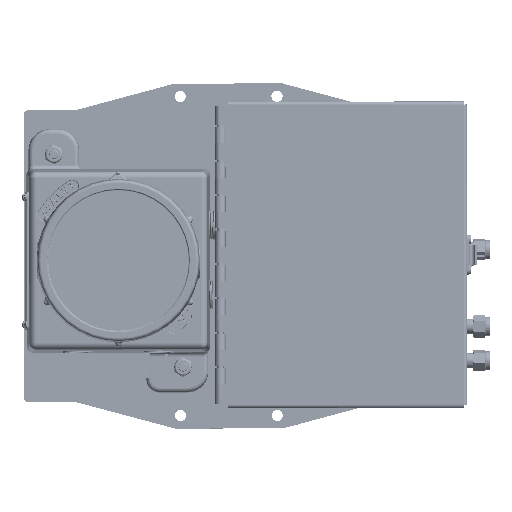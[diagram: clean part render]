
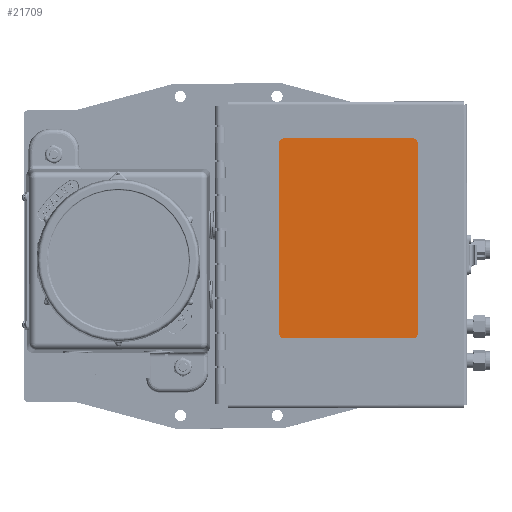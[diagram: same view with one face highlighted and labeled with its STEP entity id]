
A CAD part, top view. The second image highlights one B-rep face of the part: STEP entity #21709.
In plain terms, the highlighted planar face has unit normal (0, 0, 1).
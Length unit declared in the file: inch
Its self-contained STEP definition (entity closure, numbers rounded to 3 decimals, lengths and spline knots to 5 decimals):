
#21709 = ADVANCED_FACE ( 'NONE', ( #332207 ), #464193, .T. ) ;
#56203 = EDGE_CURVE ( 'NONE', #313847, #341854, #328486, .T. ) ;
#62045 = AXIS2_PLACEMENT_3D ( 'NONE', #364473, #453331, #155013 ) ;
#62546 = DIRECTION ( 'NONE',  ( 0., -1., 0. ) ) ;
#63423 = ORIENTED_EDGE ( 'NONE', *, *, #161694, .T. ) ;
#69522 = VECTOR ( 'NONE', #62546, 39.37008 ) ;
#71045 = CARTESIAN_POINT ( 'NONE',  ( -2.013, 2.778, 0.055 ) ) ;
#82764 = DIRECTION ( 'NONE',  ( 1., 0., 0. ) ) ;
#85466 = VERTEX_POINT ( 'NONE', #231504 ) ;
#89499 = DIRECTION ( 'NONE',  ( 1., 0., 0. ) ) ;
#91544 = VERTEX_POINT ( 'NONE', #378397 ) ;
#93800 = EDGE_CURVE ( 'NONE', #131651, #484579, #366000, .T. ) ;
#95267 = CARTESIAN_POINT ( 'NONE',  ( -1.888, 2.903, 0.055 ) ) ;
#108291 = CARTESIAN_POINT ( 'NONE',  ( 2.013, 2.778, 0.055 ) ) ;
#124461 = DIRECTION ( 'NONE',  ( 1., 0., 0. ) ) ;
#131651 = VERTEX_POINT ( 'NONE', #447151 ) ;
#134144 = CARTESIAN_POINT ( 'NONE',  ( 1.888, -2.778, 0.055 ) ) ;
#134813 = VERTEX_POINT ( 'NONE', #527541 ) ;
#147504 = CARTESIAN_POINT ( 'NONE',  ( -1.888, 2.903, 0.055 ) ) ;
#150877 = CARTESIAN_POINT ( 'NONE',  ( 2.013, 2.778, 0.055 ) ) ;
#153530 = CIRCLE ( 'NONE', #354779, 0.125 ) ;
#155013 = DIRECTION ( 'NONE',  ( 1., 0., 0. ) ) ;
#161694 = EDGE_CURVE ( 'NONE', #91544, #131651, #190910, .T. ) ;
#171446 = DIRECTION ( 'NONE',  ( 0., 0., 1. ) ) ;
#181756 = EDGE_CURVE ( 'NONE', #419912, #85466, #528984, .T. ) ;
#181973 = LINE ( 'NONE', #147504, #370940 ) ;
#190910 = CIRCLE ( 'NONE', #364963, 0.125 ) ;
#200505 = ORIENTED_EDGE ( 'NONE', *, *, #93800, .T. ) ;
#207150 = AXIS2_PLACEMENT_3D ( 'NONE', #389498, #567072, #257327 ) ;
#217448 = ORIENTED_EDGE ( 'NONE', *, *, #56203, .T. ) ;
#231504 = CARTESIAN_POINT ( 'NONE',  ( -1.888, -2.903, 0.055 ) ) ;
#237669 = VECTOR ( 'NONE', #242408, 39.37008 ) ;
#240941 = CARTESIAN_POINT ( 'NONE',  ( -2.013, 2.778, 0.055 ) ) ;
#242408 = DIRECTION ( 'NONE',  ( 0., 1., 0. ) ) ;
#247730 = CARTESIAN_POINT ( 'NONE',  ( -2.013, -2.778, 0.055 ) ) ;
#257327 = DIRECTION ( 'NONE',  ( 1., 0., 0. ) ) ;
#276569 = ORIENTED_EDGE ( 'NONE', *, *, #564731, .T. ) ;
#301870 = ORIENTED_EDGE ( 'NONE', *, *, #440089, .T. ) ;
#304464 = LINE ( 'NONE', #479409, #436643 ) ;
#313847 = VERTEX_POINT ( 'NONE', #95267 ) ;
#323290 = LINE ( 'NONE', #71045, #69522 ) ;
#328486 = CIRCLE ( 'NONE', #475135, 0.125 ) ;
#332207 = FACE_OUTER_BOUND ( 'NONE', #515209, .T. ) ;
#341854 = VERTEX_POINT ( 'NONE', #240941 ) ;
#342171 = CARTESIAN_POINT ( 'NONE',  ( 1.888, 2.778, 0.055 ) ) ;
#352213 = CARTESIAN_POINT ( 'NONE',  ( -1.888, 2.778, 0.055 ) ) ;
#354779 = AXIS2_PLACEMENT_3D ( 'NONE', #342171, #517250, #124461 ) ;
#356908 = DIRECTION ( 'NONE',  ( -1., 0., 0. ) ) ;
#364473 = CARTESIAN_POINT ( 'NONE',  ( -1.888, -2.778, 0.055 ) ) ;
#364963 = AXIS2_PLACEMENT_3D ( 'NONE', #134144, #171446, #82764 ) ;
#366000 = LINE ( 'NONE', #150877, #237669 ) ;
#370940 = VECTOR ( 'NONE', #356908, 39.37008 ) ;
#378397 = CARTESIAN_POINT ( 'NONE',  ( 1.888, -2.903, 0.055 ) ) ;
#389498 = CARTESIAN_POINT ( 'NONE',  ( -1.888, -2.778, 0.055 ) ) ;
#419912 = VERTEX_POINT ( 'NONE', #247730 ) ;
#436643 = VECTOR ( 'NONE', #89499, 39.37008 ) ;
#440089 = EDGE_CURVE ( 'NONE', #134813, #313847, #181973, .T. ) ;
#441142 = DIRECTION ( 'NONE',  ( 1., 0., 0. ) ) ;
#443602 = EDGE_CURVE ( 'NONE', #484579, #134813, #153530, .T. ) ;
#447151 = CARTESIAN_POINT ( 'NONE',  ( 2.013, -2.778, 0.055 ) ) ;
#453331 = DIRECTION ( 'NONE',  ( 0., 0., 1. ) ) ;
#464193 = PLANE ( 'NONE',  #207150 ) ;
#475135 = AXIS2_PLACEMENT_3D ( 'NONE', #352213, #484166, #441142 ) ;
#479409 = CARTESIAN_POINT ( 'NONE',  ( -1.888, -2.903, 0.055 ) ) ;
#484166 = DIRECTION ( 'NONE',  ( 0., 0., 1. ) ) ;
#484579 = VERTEX_POINT ( 'NONE', #108291 ) ;
#515209 = EDGE_LOOP ( 'NONE', ( #526800, #276569, #63423, #200505, #515247, #301870, #217448, #538371 ) ) ;
#515247 = ORIENTED_EDGE ( 'NONE', *, *, #443602, .T. ) ;
#517250 = DIRECTION ( 'NONE',  ( 0., 0., 1. ) ) ;
#517290 = EDGE_CURVE ( 'NONE', #341854, #419912, #323290, .T. ) ;
#526800 = ORIENTED_EDGE ( 'NONE', *, *, #181756, .T. ) ;
#527541 = CARTESIAN_POINT ( 'NONE',  ( 1.888, 2.903, 0.055 ) ) ;
#528984 = CIRCLE ( 'NONE', #62045, 0.125 ) ;
#538371 = ORIENTED_EDGE ( 'NONE', *, *, #517290, .T. ) ;
#564731 = EDGE_CURVE ( 'NONE', #85466, #91544, #304464, .T. ) ;
#567072 = DIRECTION ( 'NONE',  ( 0., 0., 1. ) ) ;
